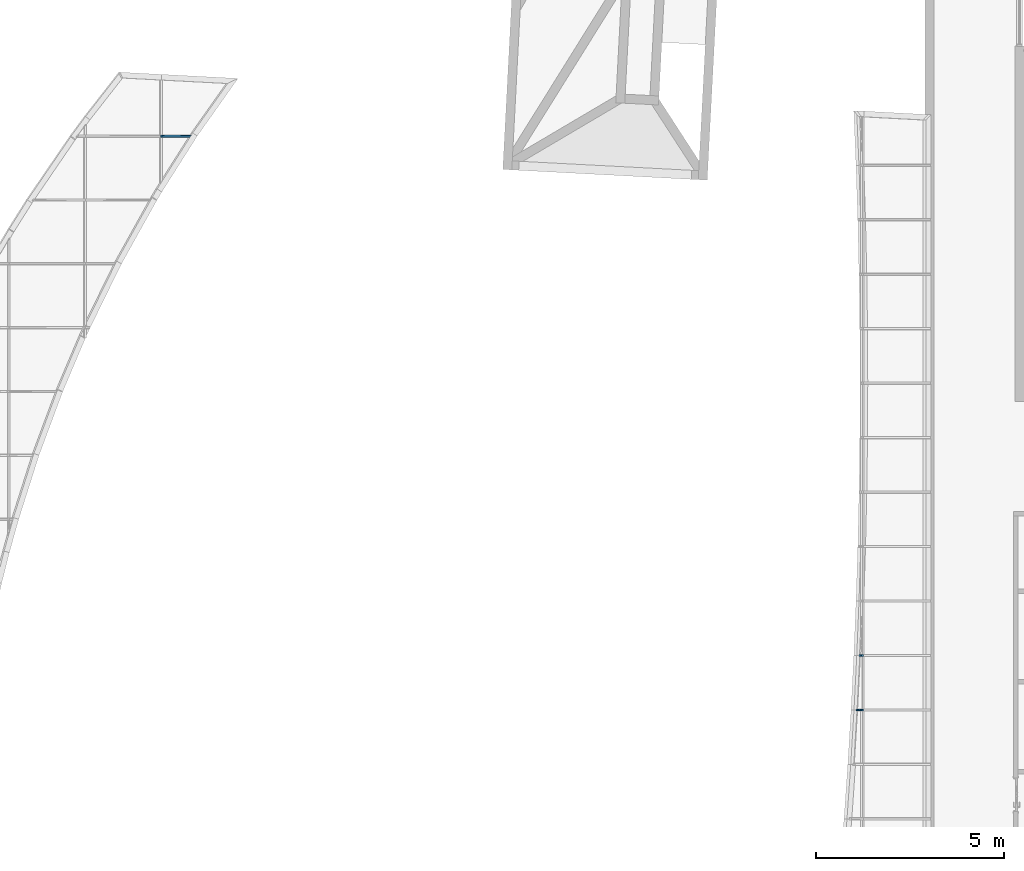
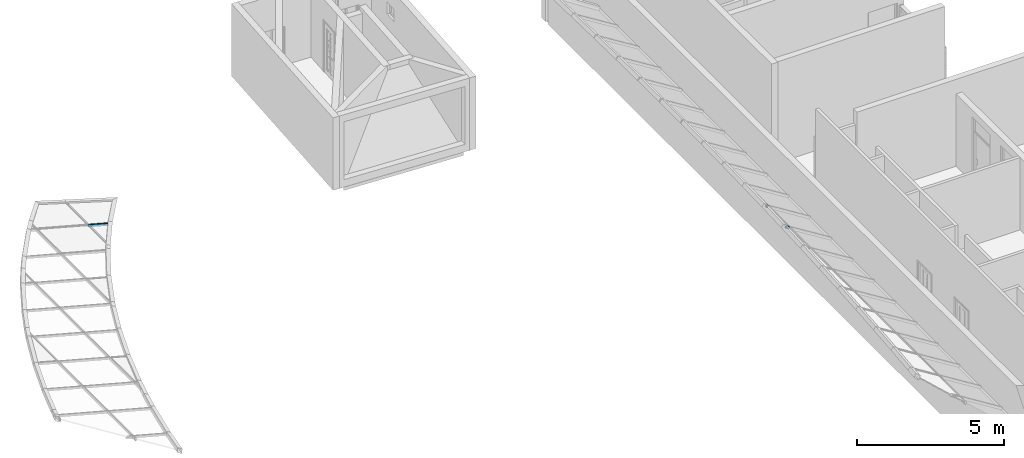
# One storey, part 11 of 33: 3 members, 2 elements without a shape of their own.
"""IFC2X3 building model written with IfcOpenShell, lengths in millimetres."""

from ifc_helpers import new_model, entity, si_unit, converted_unit, derived_unit, direction, frame, frame_2d, origin, origin_2d_with_axis, place, context, subcontext, project, spatial, polyline, rectangle, extrude, clip, halfspace, bounded_halfspace, source, transform, mapped, material, type_object, type_shapes, element, aggregate, save


model = new_model("IFC2X3")

# Units and contexts
model_context = context("Model", 3, precision=0.01, world=origin(), true_north=direction((6.12303176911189e-17, 1.0)))
body_context = subcontext(model_context, "Body", "Model", "MODEL_VIEW")
ifc_project = project(units=[si_unit("LENGTHUNIT", "METRE", prefix="MILLI"), si_unit("AREAUNIT", "SQUARE_METRE"), si_unit("VOLUMEUNIT", "CUBIC_METRE"), converted_unit("PLANEANGLEUNIT", "DEGREE", entity("IfcRatioMeasure", 0.0174532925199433), si_unit("PLANEANGLEUNIT", "RADIAN"), dimensions=[0, 0, 0, 0, 0, 0, 0]), si_unit("MASSUNIT", "GRAM", prefix="KILO"), derived_unit("MASSDENSITYUNIT", [(si_unit("MASSUNIT", "GRAM", prefix="KILO"), 1), (si_unit("LENGTHUNIT", "METRE"), -3)]), si_unit("TIMEUNIT", "SECOND"), si_unit("FREQUENCYUNIT", "HERTZ"), si_unit("THERMODYNAMICTEMPERATUREUNIT", "DEGREE_CELSIUS"), derived_unit("THERMALTRANSMITTANCEUNIT", [(si_unit("MASSUNIT", "GRAM", prefix="KILO"), 1), (si_unit("THERMODYNAMICTEMPERATUREUNIT", "KELVIN"), -1), (si_unit("TIMEUNIT", "SECOND"), -3)]), derived_unit("VOLUMETRICFLOWRATEUNIT", [(si_unit("LENGTHUNIT", "METRE"), 3), (si_unit("TIMEUNIT", "SECOND"), -1)]), si_unit("ELECTRICCURRENTUNIT", "AMPERE"), si_unit("ELECTRICVOLTAGEUNIT", "VOLT"), si_unit("POWERUNIT", "WATT"), si_unit("FORCEUNIT", "NEWTON", prefix="KILO"), si_unit("ILLUMINANCEUNIT", "LUX"), si_unit("LUMINOUSFLUXUNIT", "LUMEN"), si_unit("LUMINOUSINTENSITYUNIT", "CANDELA"), derived_unit("USERDEFINED", [(si_unit("MASSUNIT", "GRAM", prefix="KILO"), -1), (si_unit("LENGTHUNIT", "METRE"), -2), (si_unit("TIMEUNIT", "SECOND"), 3), (si_unit("LUMINOUSFLUXUNIT", "LUMEN"), 1)]), derived_unit("LINEARVELOCITYUNIT", [(si_unit("LENGTHUNIT", "METRE"), 1), (si_unit("TIMEUNIT", "SECOND"), -1)]), si_unit("PRESSUREUNIT", "PASCAL"), derived_unit("USERDEFINED", [(si_unit("LENGTHUNIT", "METRE"), -2), (si_unit("MASSUNIT", "GRAM", prefix="KILO"), 1), (si_unit("TIMEUNIT", "SECOND"), -2)])], contexts=[model_context])

# Site, building, storey
site_placement = place(None, origin())
site = spatial("IfcSite", under=ifc_project, at=site_placement, Name="表面", CompositionType="ELEMENT")
building_placement = place(site_placement, origin())
building = spatial("IfcBuilding", under=site, at=building_placement, CompositionType="ELEMENT")
storey_placement = place(building_placement, frame((0.0, 0.0, 6000.0)))
storey = spatial("IfcBuildingStorey", under=building, at=storey_placement, Name="3F", CompositionType="ELEMENT", Elevation=6000.00000000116)

# Curtain wall, member
curtain_wall_type_1 = type_object("IfcCurtainWallType", Name="幕墙系统:1700 x 2100mm", PredefinedType="NOTDEFINED")
curtain_wall_1_placement = place(storey_placement, frame((0.0, 0.0, -6000.0)))
curtain_wall_1 = element("IfcCurtainWall", 1, at=curtain_wall_1_placement, inside=storey, type_object=curtain_wall_type_1, Name="幕墙系统:1700 x 2100mm", ObjectType="幕墙系统:1700 x 2100mm")
ifc_material = material(Name="金属 - 铝")
member_type_1 = type_object("IfcMemberType", Name="50 x 100mm", PredefinedType="MEMBER")
shared_shape_1 = source(origin(), body_context, "Body", "Clipping", [
    clip(extrude(rectangle(XDim=100.0, YDim=50.0, at=frame_2d((-1.77635683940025e-14, 0.0), x_axis=(1.0, 0.0))), frame((0.0, 0.0, -814.101724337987), z_axis=(0.0, 0.0, 1.0), x_axis=(0.0, -1.0, 0.0)), (0.0, 0.0, 1.0), 814.101724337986), halfspace(frame((1406.1116558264, 75.0, 125.393975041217), z_axis=(0.54879063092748, 0.0, -0.835959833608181), x_axis=(-0.835959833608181, 0.0, -0.54879063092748)), False)),
])
type_shapes(member_type_1, [shared_shape_1])
member_1_placement = place(storey_placement, frame((-34882.1148660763, 1405.62731307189, 1182.46128576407), z_axis=(-0.965925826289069, 0.0, 0.258819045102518), x_axis=(0.0, -1.0, 0.0)))
member_1 = element("IfcMember", 2, at=member_1_placement, type_object=member_type_1, material=ifc_material, Name="矩形竖梃:50 x 100mm", ObjectType="50 x 100mm", context=body_context, shape_type="MappedRepresentation", body=[
    mapped(shared_shape_1, transform((0.0, 0.0, 0.0), scale=1.0)),
])
aggregate(curtain_wall_1, [member_1])

# Curtain wall, members
curtain_wall_type_2 = type_object("IfcCurtainWallType", Name="幕墙系统:1450 x 2100mm", PredefinedType="NOTDEFINED")
curtain_wall_2_placement = place(storey_placement, frame((0.0, 0.0, -6000.0)))
curtain_wall_2 = element("IfcCurtainWall", 3, at=curtain_wall_2_placement, inside=storey, type_object=curtain_wall_type_2, Name="幕墙系统:1450 x 2100mm", ObjectType="幕墙系统:1450 x 2100mm")
member_type_2 = type_object("IfcMemberType", Name="50 x 100mm", PredefinedType="MEMBER")
shared_shape_2 = source(origin(), body_context, "Body", "Clipping", [
    clip(clip(extrude(rectangle(XDim=100.0, YDim=50.0, at=origin_2d_with_axis()), frame((0.0, 0.0, -225.152353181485), z_axis=(0.0, 0.0, 1.0), x_axis=(0.0, -1.0, 0.0)), (0.0, 0.0, 1.0), 76.3760631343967), bounded_halfspace(frame((8.11089315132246, 75.0, -149.782760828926), z_axis=(-0.0594873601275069, 0.0, 0.998229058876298), x_axis=(0.998229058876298, 0.0, 0.0594873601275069)), False, frame((0.0, 0.0, -225.152353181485), z_axis=(0.0, 0.0, 1.0), x_axis=(0.0, -1.0, 0.0)), polyline([(-50.0, 25.0), (-50.0, 8.11089315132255), (50.0, 8.11089315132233), (50.0, 25.0), (-50.0, 25.0)]))), bounded_halfspace(frame((-1442.70179500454, 75.0, -220.455317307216), z_axis=(-0.0486546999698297, 0.0, 0.998815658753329), x_axis=(0.998815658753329, 0.0, 0.0486546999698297)), False, frame((0.0, 0.0, -225.152353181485), z_axis=(0.0, 0.0, 1.0), x_axis=(0.0, -1.0, 0.0)), polyline([(-50.0, 8.11089315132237), (-50.0, -25.0), (50.0, -25.0), (50.0, 8.11089315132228), (-50.0, 8.11089315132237)]))),
])
type_shapes(member_type_2, [shared_shape_2])
placement = place(building_placement, frame((0.0, 0.0, 9000.0)))
member_2_placement = place(placement, frame((-16402.0909390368, -12420.8979069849, 945.360866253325), z_axis=(-0.848048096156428, 0.0, 0.529919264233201), x_axis=(0.0, -1.0, 0.0)))
member_2 = element("IfcMember", 4, at=member_2_placement, type_object=member_type_2, material=ifc_material, Name="矩形竖梃:50 x 100mm", ObjectType="50 x 100mm", context=body_context, shape_type="MappedRepresentation", body=[
    mapped(shared_shape_2, transform((0.0, 0.0, 0.0), scale=1.0)),
])
member_type_3 = type_object("IfcMemberType", Name="50 x 100mm", PredefinedType="MEMBER")
shared_shape_3 = source(origin(), body_context, "Body", "Clipping", [
    clip(clip(extrude(rectangle(XDim=100.0, YDim=50.0, at=origin_2d_with_axis()), frame((0.0, 0.0, -311.56205185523), z_axis=(0.0, 0.0, 1.0), x_axis=(0.0, -1.0, 0.0)), (0.0, 0.0, 1.0), 162.952080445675), bounded_halfspace(frame((9.73539879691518, 75.0, -149.685951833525), z_axis=(-0.0703141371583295, 0.0, 0.997524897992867), x_axis=(0.997524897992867, 0.0, 0.0703141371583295)), False, frame((0.0, 0.0, -311.56205185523), z_axis=(0.0, 0.0, 1.0), x_axis=(0.0, -1.0, 0.0)), polyline([(-50.0, 25.0), (-50.0, 9.73539879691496), (50.0, 9.73539879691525), (50.0, 25.0), (-50.0, 25.0)]))), bounded_halfspace(frame((-1441.07689598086, 75.0, -236.144057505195), z_axis=(-0.0594873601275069, 0.0, 0.998229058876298), x_axis=(0.998229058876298, 0.0, 0.0594873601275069)), False, frame((0.0, 0.0, -311.56205185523), z_axis=(0.0, 0.0, 1.0), x_axis=(0.0, -1.0, 0.0)), polyline([(-50.0, 9.73539879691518), (-50.0, -25.0), (50.0, -25.0), (50.0, 9.73539879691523), (-50.0, 9.73539879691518)]))),
])
type_shapes(member_type_3, [shared_shape_3])
member_3_placement = place(placement, frame((-16475.3705194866, -13870.8979069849, 991.15103019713), z_axis=(-0.84804809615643, 0.0, 0.529919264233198), x_axis=(0.0, -1.0, 0.0)))
member_3 = element("IfcMember", 5, at=member_3_placement, type_object=member_type_3, material=ifc_material, Name="矩形竖梃:50 x 100mm", ObjectType="50 x 100mm", context=body_context, shape_type="MappedRepresentation", body=[
    mapped(shared_shape_3, transform((0.0, 0.0, 0.0), scale=1.0)),
])
aggregate(curtain_wall_2, [member_2, member_3])

save(model, "model.ifc")
